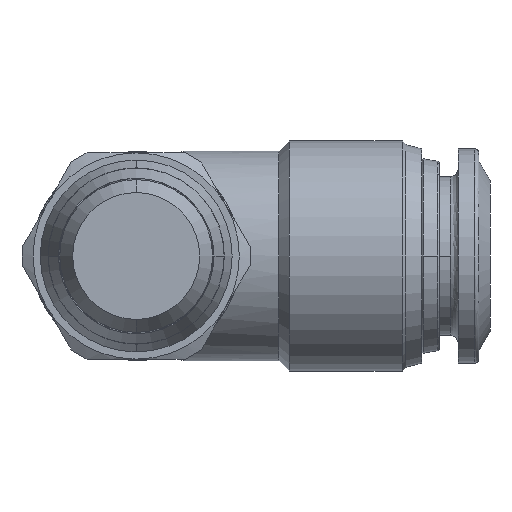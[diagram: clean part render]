
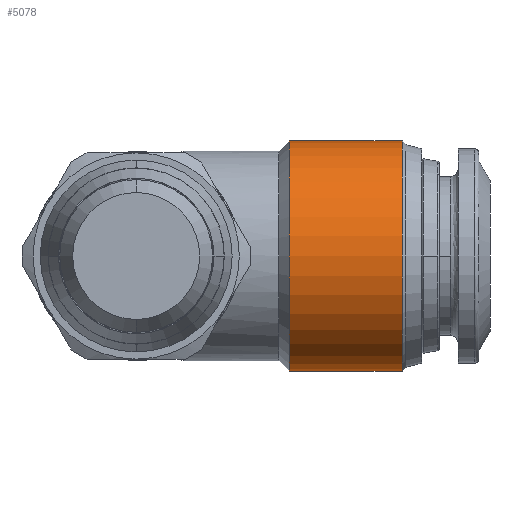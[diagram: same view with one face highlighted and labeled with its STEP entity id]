
A CAD part, front view. The second image highlights one B-rep face of the part: STEP entity #5078.
In plain terms, the highlighted cylindrical face has radius 7.25 mm (diameter 14.5 mm), a partial arc.
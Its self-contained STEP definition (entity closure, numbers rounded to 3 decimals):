
#63 = AXIS2_PLACEMENT_3D ( 'NONE', #696, #612, #5136 ) ;
#233 = CARTESIAN_POINT ( 'NONE',  ( 16.768, 0., -7.25 ) ) ;
#291 = EDGE_CURVE ( 'NONE', #2618, #3603, #3292, .T. ) ;
#385 = VERTEX_POINT ( 'NONE', #1586 ) ;
#398 = CARTESIAN_POINT ( 'NONE',  ( 16.768, 0., 0. ) ) ;
#579 = EDGE_CURVE ( 'NONE', #3603, #385, #5247, .T. ) ;
#612 = DIRECTION ( 'NONE',  ( 1., 0., 0. ) ) ;
#696 = CARTESIAN_POINT ( 'NONE',  ( 9.65, 0., 0. ) ) ;
#774 = CARTESIAN_POINT ( 'NONE',  ( 16.768, 0., 0. ) ) ;
#813 = DIRECTION ( 'NONE',  ( 0., 0., 1. ) ) ;
#843 = VERTEX_POINT ( 'NONE', #4387 ) ;
#1479 = CARTESIAN_POINT ( 'NONE',  ( 9.65, 0., 7.25 ) ) ;
#1586 = CARTESIAN_POINT ( 'NONE',  ( 9.65, 0., -7.25 ) ) ;
#1960 = LINE ( 'NONE', #233, #4189 ) ;
#2271 = ORIENTED_EDGE ( 'NONE', *, *, #5121, .F. ) ;
#2393 = DIRECTION ( 'NONE',  ( 0., 0., 1. ) ) ;
#2502 = FACE_OUTER_BOUND ( 'NONE', #4699, .T. ) ;
#2569 = CARTESIAN_POINT ( 'NONE',  ( 16.768, 0., 7.25 ) ) ;
#2618 = VERTEX_POINT ( 'NONE', #2569 ) ;
#2927 = EDGE_CURVE ( 'NONE', #843, #385, #1960, .T. ) ;
#2967 = CARTESIAN_POINT ( 'NONE',  ( 16.768, 0., 7.25 ) ) ;
#3026 = AXIS2_PLACEMENT_3D ( 'NONE', #398, #3209, #813 ) ;
#3209 = DIRECTION ( 'NONE',  ( 1., 0., 0. ) ) ;
#3292 = LINE ( 'NONE', #2967, #3927 ) ;
#3302 = AXIS2_PLACEMENT_3D ( 'NONE', #774, #4850, #2393 ) ;
#3567 = CIRCLE ( 'NONE', #3026, 7.25 ) ;
#3603 = VERTEX_POINT ( 'NONE', #1479 ) ;
#3746 = ORIENTED_EDGE ( 'NONE', *, *, #579, .T. ) ;
#3927 = VECTOR ( 'NONE', #4512, 1000. ) ;
#3966 = ORIENTED_EDGE ( 'NONE', *, *, #2927, .F. ) ;
#4189 = VECTOR ( 'NONE', #4441, 1000. ) ;
#4387 = CARTESIAN_POINT ( 'NONE',  ( 16.768, 0., -7.25 ) ) ;
#4441 = DIRECTION ( 'NONE',  ( -1., 0., 0. ) ) ;
#4512 = DIRECTION ( 'NONE',  ( -1., 0., 0. ) ) ;
#4699 = EDGE_LOOP ( 'NONE', ( #3966, #2271, #5258, #3746 ) ) ;
#4850 = DIRECTION ( 'NONE',  ( -1., 0., 0. ) ) ;
#5070 = CYLINDRICAL_SURFACE ( 'NONE', #3302, 7.25 ) ;
#5078 = ADVANCED_FACE ( 'NONE', ( #2502 ), #5070, .T. ) ;
#5121 = EDGE_CURVE ( 'NONE', #2618, #843, #3567, .T. ) ;
#5136 = DIRECTION ( 'NONE',  ( 0., 0., -1. ) ) ;
#5247 = CIRCLE ( 'NONE', #63, 7.25 ) ;
#5258 = ORIENTED_EDGE ( 'NONE', *, *, #291, .T. ) ;
